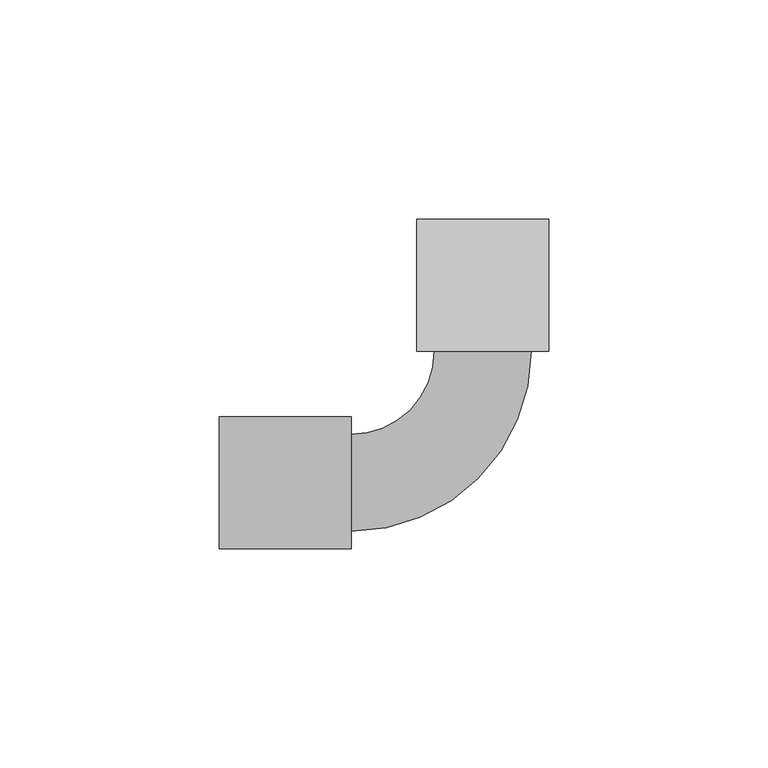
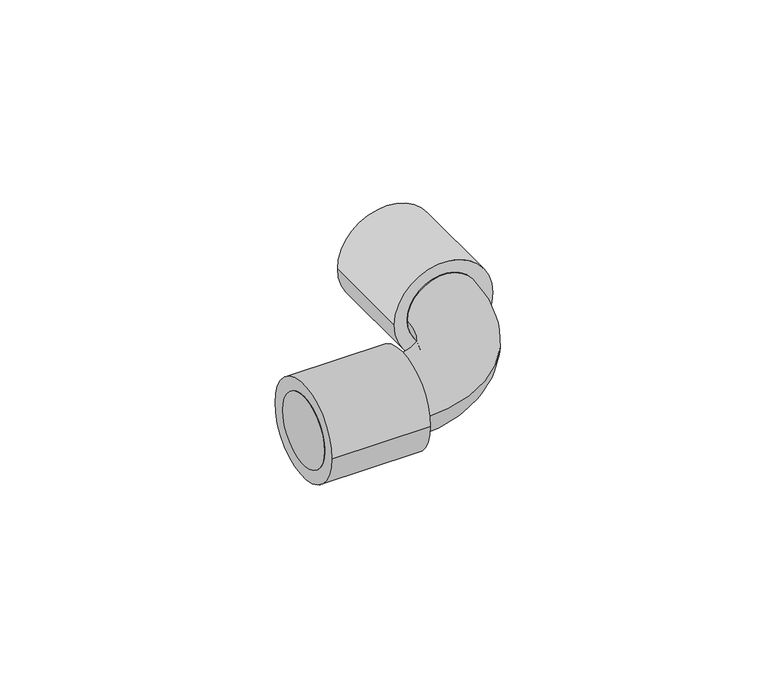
"""IFC4 building model written with IfcOpenShell, lengths in millimetres: cable carrier fitting geometry, Поворот на 90 труба-труба IP65 CS : Поворот на 90 труба-труба IP65 CS."""

from ifc_helpers import new_model, si_unit, point, frame, origin, origin_2d, place, context, project, spatial, circle_curve, ellipse_curve, trimmed, segment, composite_curve, outline, extrude, source, transform, mapped, element, save
from ifc_brep_helpers import plane_surface, cylinder_surface, revolved_surface, advanced_brep


def cable_carrier_fitting_f314b148(model_context):
    return source(origin(), model_context, "Body", "SolidModel", [
        advanced_brep(
        [(-60.0, -11.0, 0.0), (-60.0, 11.0, 0.0), (-30.0, -11.0, 0.0), (-30.0, 11.0, 0.0), (-11.0, 30.0, 0.0), (11.0, 30.0, 0.0), (11.0, 60.0, 0.0), (-11.0, 60.0, 0.0)],
        [
            (0, 1, circle_curve(frame((-60.0, 0.0, 0.0), z_axis=(-1.0, 0.0, 0.0), x_axis=(0.0, 1.0, 0.0)), 11.0)),
            (1, 0, circle_curve(frame((-60.0, 0.0, 0.0), z_axis=(-1.0, 0.0, 0.0), x_axis=(0.0, 1.0, 0.0)), 11.0)),
            (0, 2),
            (2, 3, circle_curve(frame((-30.0, 0.0, 0.0), z_axis=(-1.0, 0.0, 0.0), x_axis=(0.0, 1.0, 0.0)), 11.0)),
            (3, 1),
            (3, 2, circle_curve(frame((-30.0, 0.0, 0.0), z_axis=(-1.0, 0.0, 0.0), x_axis=(0.0, 1.0, 0.0)), 11.0)),
            (4, 3, circle_curve(frame((-30.0, 30.0, 0.0), z_axis=(0.0, 0.0, -1.0), x_axis=(0.0, -1.0, 0.0)), 19.0)),
            (2, 5, circle_curve(frame((-30.0, 30.0, 0.0), z_axis=(0.0, 0.0, 1.0), x_axis=(0.0, -1.0, 0.0)), 41.0)),
            (5, 4, circle_curve(frame((0.0, 30.0, 0.0), z_axis=(0.0, -1.0, 0.0), x_axis=(-1.0, 0.0, 0.0)), 11.0)),
            (4, 5, circle_curve(frame((0.0, 30.0, 0.0), z_axis=(0.0, -1.0, 0.0), x_axis=(-1.0, 0.0, 0.0)), 11.0)),
            (6, 7, circle_curve(frame((0.0, 60.0, 0.0), z_axis=(0.0, 1.0, 0.0), x_axis=(-1.0, 0.0, 0.0)), 11.0)),
            (7, 6, circle_curve(frame((0.0, 60.0, 0.0), z_axis=(0.0, 1.0, 0.0), x_axis=(-1.0, 0.0, 0.0)), 11.0)),
            (5, 6),
            (7, 4),
        ],
        [
            plane_surface(frame((-60.0, 0.0, 0.0), z_axis=(-1.0, 0.0, 0.0), x_axis=(0.0, 0.0, 1.0))),
            cylinder_surface(frame((-60.0, 0.0, 0.0), z_axis=(-1.0, 0.0, 0.0), x_axis=(0.0, 1.0, 0.0)), 11.0),
            revolved_surface(trimmed(ellipse_curve(frame((-30.0, 0.0, 0.0), z_axis=(-1.0, 0.0, 0.0), x_axis=(0.0, 1.0, 0.0)), 11.0, 11.0), [point((-30.0, -11.0, 0.0))], [point((-30.0, 11.0, 0.0))], True, "CARTESIAN"), (-30.0, 30.0, 0.0), (0.0, 0.0, 1.0)),
            revolved_surface(trimmed(ellipse_curve(frame((-30.0, 0.0, 0.0), z_axis=(-1.0, 0.0, 0.0), x_axis=(0.0, 1.0, 0.0)), 11.0, 11.0), [point((-30.0, 11.0, 0.0))], [point((-30.0, -11.0, 0.0))], True, "CARTESIAN"), (-30.0, 30.0, 0.0), (0.0, 0.0, 1.0)),
            plane_surface(frame((0.0, 60.0, 0.0), z_axis=(0.0, 1.0, 0.0), x_axis=(0.0, 0.0, 1.0))),
            cylinder_surface(frame((0.0, 30.0, 0.0), z_axis=(0.0, -1.0, 0.0), x_axis=(-1.0, 0.0, 0.0)), 11.0),
        ],
        [
            (0, [[1, 2]]),
            (1, [[-1, 3, 4, 5]]),
            (1, [[-2, -5, 6, -3]]),
            (2, [[7, -4, 8, 9]]),
            (3, [[-8, -6, -7, 10]]),
            (4, [[11, 12]]),
            (5, [[-9, 13, -12, 14]]),
            (5, [[-10, -14, -11, -13]]),
        ],
    ),
        extrude(outline(composite_curve([segment(trimmed(circle_curve(origin_2d(), 15.0), [point((-15.0, 0.0))], [point((15.0, 0.0))], False, "CARTESIAN"), True, "CONTINUOUS"), segment(trimmed(circle_curve(origin_2d(), 15.0), [point((15.0, 0.0))], [point((-15.0, 0.0))], False, "CARTESIAN"), True, "CONTINUOUS")], self_intersect=False)), frame((-60.0, 0.0, 0.0), z_axis=(1.0, 0.0, 0.0), x_axis=(0.0, 1.0, 0.0)), (0.0, 0.0, 1.0), 30.0),
        extrude(outline(composite_curve([segment(trimmed(circle_curve(origin_2d(), 15.0), [point((0.0, 15.0))], [point((0.0, -15.0))], False, "CARTESIAN"), True, "CONTINUOUS"), segment(trimmed(circle_curve(origin_2d(), 15.0), [point((0.0, -15.0))], [point((0.0, 15.0))], False, "CARTESIAN"), True, "CONTINUOUS")], self_intersect=False)), frame((0.0, 30.0, 0.0), z_axis=(0.0, 1.0, 0.0), x_axis=(0.0, 0.0, 1.0)), (0.0, 0.0, 1.0), 30.0),
    ])


if __name__ == "__main__":
    model = new_model("IFC4")
    model_context = context("Model", 3, world=origin())
    ifc_project = project(units=[si_unit("LENGTHUNIT", "METRE", prefix="MILLI")], contexts=[model_context])
    site = spatial("IfcSite", under=ifc_project)
    building = spatial("IfcBuilding", under=site)
    placement = place(None, origin())
    cable_carrier_fitting_shape = cable_carrier_fitting_f314b148(model_context)
    element("IfcCableCarrierFitting", 1, ObjectType="Поворот на 90 труба-труба IP65 CS : Поворот на 90 труба-труба IP65 CS", at=placement, inside=building, context=model_context, shape_type="MappedRepresentation", body=[
        mapped(cable_carrier_fitting_shape, transform((0.0, 0.0, 0.0), x_axis=(1.0, 0.0, 0.0), y_axis=(0.0, 1.0, 0.0), z_axis=(0.0, 0.0, 1.0))),
    ])
    save(model, "model.ifc")
